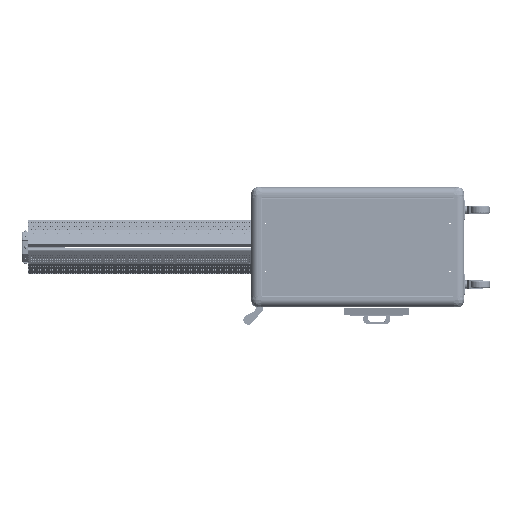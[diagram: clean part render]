
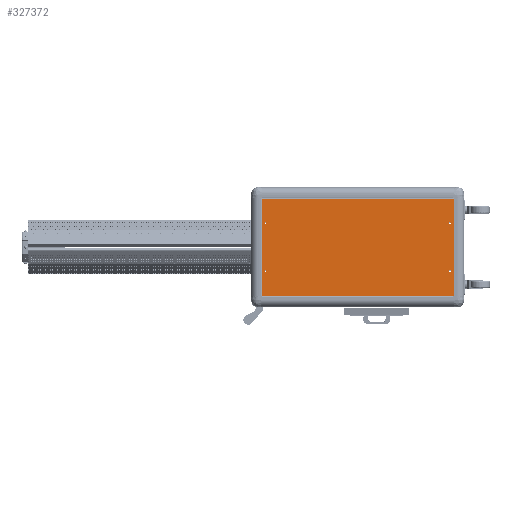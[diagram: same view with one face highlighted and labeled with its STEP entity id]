
A CAD part, top view. The second image highlights one B-rep face of the part: STEP entity #327372.
In plain terms, the highlighted planar face has unit normal (0, 0, 1).
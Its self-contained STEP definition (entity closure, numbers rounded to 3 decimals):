
#2383 = AXIS2_PLACEMENT_3D ( 'NONE', #238593, #20864, #367246 ) ;
#2633 = DIRECTION ( 'NONE',  ( 1., 0., 0. ) ) ;
#3320 = VECTOR ( 'NONE', #185070, 1000. ) ;
#19205 = EDGE_CURVE ( 'NONE', #229386, #267822, #277544, .T. ) ;
#20864 = DIRECTION ( 'NONE',  ( 0., 0., 1. ) ) ;
#22503 = AXIS2_PLACEMENT_3D ( 'NONE', #250299, #347383, #119478 ) ;
#27956 = ORIENTED_EDGE ( 'NONE', *, *, #185155, .F. ) ;
#36772 = EDGE_CURVE ( 'NONE', #188291, #226147, #366383, .T. ) ;
#38645 = EDGE_LOOP ( 'NONE', ( #27956, #372446 ) ) ;
#39757 = AXIS2_PLACEMENT_3D ( 'NONE', #73276, #231769, #301208 ) ;
#41330 = EDGE_LOOP ( 'NONE', ( #88248, #336116 ) ) ;
#42962 = DIRECTION ( 'NONE',  ( 0., 0., 1. ) ) ;
#47497 = EDGE_CURVE ( 'NONE', #128865, #229386, #127918, .T. ) ;
#50795 = FACE_BOUND ( 'NONE', #280369, .T. ) ;
#54948 = FACE_BOUND ( 'NONE', #329719, .T. ) ;
#62246 = CARTESIAN_POINT ( 'NONE',  ( -202.5, 400., 0. ) ) ;
#73276 = CARTESIAN_POINT ( 'NONE',  ( -100., -385., 0. ) ) ;
#79215 = CARTESIAN_POINT ( 'NONE',  ( 202.5, -400., 0. ) ) ;
#84532 = EDGE_CURVE ( 'NONE', #407400, #89195, #246359, .T. ) ;
#86158 = AXIS2_PLACEMENT_3D ( 'NONE', #353490, #416723, #256465 ) ;
#87291 = CIRCLE ( 'NONE', #390662, 3.5 ) ;
#88248 = ORIENTED_EDGE ( 'NONE', *, *, #36772, .F. ) ;
#89195 = VERTEX_POINT ( 'NONE', #227959 ) ;
#93770 = CIRCLE ( 'NONE', #39757, 3.5 ) ;
#100839 = ORIENTED_EDGE ( 'NONE', *, *, #215439, .F. ) ;
#101630 = DIRECTION ( 'NONE',  ( 0., 0., 1. ) ) ;
#104352 = ORIENTED_EDGE ( 'NONE', *, *, #134070, .F. ) ;
#105088 = CARTESIAN_POINT ( 'NONE',  ( -103.5, -385., 0. ) ) ;
#112915 = CARTESIAN_POINT ( 'NONE',  ( -103.5, 385., 0. ) ) ;
#119331 = EDGE_CURVE ( 'NONE', #226147, #188291, #319542, .T. ) ;
#119478 = DIRECTION ( 'NONE',  ( 1., 0., 0. ) ) ;
#119867 = AXIS2_PLACEMENT_3D ( 'NONE', #338016, #183857, #373762 ) ;
#125225 = AXIS2_PLACEMENT_3D ( 'NONE', #390664, #101630, #295704 ) ;
#127918 = LINE ( 'NONE', #216768, #3320 ) ;
#128865 = VERTEX_POINT ( 'NONE', #336737 ) ;
#134070 = EDGE_CURVE ( 'NONE', #376327, #246622, #353231, .T. ) ;
#144876 = VECTOR ( 'NONE', #176395, 1000. ) ;
#145958 = FACE_BOUND ( 'NONE', #38645, .T. ) ;
#156159 = EDGE_CURVE ( 'NONE', #313247, #310044, #379969, .T. ) ;
#164164 = ORIENTED_EDGE ( 'NONE', *, *, #171629, .T. ) ;
#171629 = EDGE_CURVE ( 'NONE', #369685, #128865, #182099, .T. ) ;
#176395 = DIRECTION ( 'NONE',  ( 0., 1., 0. ) ) ;
#182099 = LINE ( 'NONE', #243315, #335539 ) ;
#182676 = CARTESIAN_POINT ( 'NONE',  ( -96.5, -385., 0. ) ) ;
#183857 = DIRECTION ( 'NONE',  ( 0., 0., -1. ) ) ;
#185070 = DIRECTION ( 'NONE',  ( 1., 0., 0. ) ) ;
#185155 = EDGE_CURVE ( 'NONE', #310044, #313247, #93770, .T. ) ;
#188291 = VERTEX_POINT ( 'NONE', #387870 ) ;
#197363 = CARTESIAN_POINT ( 'NONE',  ( 100., -385., 0. ) ) ;
#197520 = ORIENTED_EDGE ( 'NONE', *, *, #47497, .T. ) ;
#209390 = FACE_OUTER_BOUND ( 'NONE', #359856, .T. ) ;
#209408 = CARTESIAN_POINT ( 'NONE',  ( -96.5, 385., 0. ) ) ;
#215439 = EDGE_CURVE ( 'NONE', #89195, #407400, #87291, .T. ) ;
#216592 = ORIENTED_EDGE ( 'NONE', *, *, #242614, .T. ) ;
#216768 = CARTESIAN_POINT ( 'NONE',  ( -202.5, -400., 0. ) ) ;
#217960 = DIRECTION ( 'NONE',  ( 0., -1., 0. ) ) ;
#226147 = VERTEX_POINT ( 'NONE', #231730 ) ;
#227959 = CARTESIAN_POINT ( 'NONE',  ( 103.5, 385., 0. ) ) ;
#229386 = VERTEX_POINT ( 'NONE', #399891 ) ;
#231730 = CARTESIAN_POINT ( 'NONE',  ( 96.5, -385., 0. ) ) ;
#231769 = DIRECTION ( 'NONE',  ( 0., 0., 1. ) ) ;
#232821 = CARTESIAN_POINT ( 'NONE',  ( -100., 385., 0. ) ) ;
#233585 = VECTOR ( 'NONE', #366079, 1000. ) ;
#237252 = DIRECTION ( 'NONE',  ( 1., 0., 0. ) ) ;
#238593 = CARTESIAN_POINT ( 'NONE',  ( -100., -385., 0. ) ) ;
#241265 = DIRECTION ( 'NONE',  ( 0., 0., 1. ) ) ;
#242614 = EDGE_CURVE ( 'NONE', #267822, #369685, #302784, .T. ) ;
#243315 = CARTESIAN_POINT ( 'NONE',  ( -202.5, -400., 0. ) ) ;
#243699 = EDGE_CURVE ( 'NONE', #246622, #376327, #268152, .T. ) ;
#246359 = CIRCLE ( 'NONE', #125225, 3.5 ) ;
#246622 = VERTEX_POINT ( 'NONE', #209408 ) ;
#248289 = CARTESIAN_POINT ( 'NONE',  ( 202.5, 400., 0. ) ) ;
#250299 = CARTESIAN_POINT ( 'NONE',  ( 100., -385., 0. ) ) ;
#250554 = ORIENTED_EDGE ( 'NONE', *, *, #19205, .T. ) ;
#253691 = ORIENTED_EDGE ( 'NONE', *, *, #243699, .F. ) ;
#256465 = DIRECTION ( 'NONE',  ( 1., 0., 0. ) ) ;
#267822 = VERTEX_POINT ( 'NONE', #248289 ) ;
#268152 = CIRCLE ( 'NONE', #86158, 3.5 ) ;
#277544 = LINE ( 'NONE', #79215, #144876 ) ;
#279063 = DIRECTION ( 'NONE',  ( 1., 0., 0. ) ) ;
#279154 = AXIS2_PLACEMENT_3D ( 'NONE', #197363, #42962, #237252 ) ;
#279953 = ORIENTED_EDGE ( 'NONE', *, *, #84532, .F. ) ;
#280369 = EDGE_LOOP ( 'NONE', ( #100839, #279953 ) ) ;
#295704 = DIRECTION ( 'NONE',  ( 1., 0., 0. ) ) ;
#296183 = CARTESIAN_POINT ( 'NONE',  ( 100., 385., 0. ) ) ;
#301208 = DIRECTION ( 'NONE',  ( 1., 0., 0. ) ) ;
#302784 = LINE ( 'NONE', #374413, #233585 ) ;
#310044 = VERTEX_POINT ( 'NONE', #182676 ) ;
#313247 = VERTEX_POINT ( 'NONE', #105088 ) ;
#314586 = PLANE ( 'NONE',  #119867 ) ;
#319494 = AXIS2_PLACEMENT_3D ( 'NONE', #232821, #361472, #2633 ) ;
#319542 = CIRCLE ( 'NONE', #279154, 3.5 ) ;
#327372 = ADVANCED_FACE ( 'NONE', ( #50795, #145958, #344216, #54948, #209390 ), #314586, .F. ) ;
#329719 = EDGE_LOOP ( 'NONE', ( #253691, #104352 ) ) ;
#335539 = VECTOR ( 'NONE', #217960, 1000. ) ;
#336116 = ORIENTED_EDGE ( 'NONE', *, *, #119331, .F. ) ;
#336737 = CARTESIAN_POINT ( 'NONE',  ( -202.5, -400., 0. ) ) ;
#338016 = CARTESIAN_POINT ( 'NONE',  ( 0., 0., 0. ) ) ;
#344216 = FACE_BOUND ( 'NONE', #41330, .T. ) ;
#347383 = DIRECTION ( 'NONE',  ( 0., 0., 1. ) ) ;
#353231 = CIRCLE ( 'NONE', #319494, 3.5 ) ;
#353490 = CARTESIAN_POINT ( 'NONE',  ( -100., 385., 0. ) ) ;
#359856 = EDGE_LOOP ( 'NONE', ( #250554, #216592, #164164, #197520 ) ) ;
#361472 = DIRECTION ( 'NONE',  ( 0., 0., 1. ) ) ;
#366079 = DIRECTION ( 'NONE',  ( -1., 0., 0. ) ) ;
#366383 = CIRCLE ( 'NONE', #22503, 3.5 ) ;
#367246 = DIRECTION ( 'NONE',  ( 1., 0., 0. ) ) ;
#369685 = VERTEX_POINT ( 'NONE', #62246 ) ;
#372446 = ORIENTED_EDGE ( 'NONE', *, *, #156159, .F. ) ;
#373762 = DIRECTION ( 'NONE',  ( -1., 0., 0. ) ) ;
#374413 = CARTESIAN_POINT ( 'NONE',  ( -202.5, 400., 0. ) ) ;
#376327 = VERTEX_POINT ( 'NONE', #112915 ) ;
#379969 = CIRCLE ( 'NONE', #2383, 3.5 ) ;
#387870 = CARTESIAN_POINT ( 'NONE',  ( 103.5, -385., 0. ) ) ;
#390662 = AXIS2_PLACEMENT_3D ( 'NONE', #296183, #241265, #279063 ) ;
#390664 = CARTESIAN_POINT ( 'NONE',  ( 100., 385., 0. ) ) ;
#399891 = CARTESIAN_POINT ( 'NONE',  ( 202.5, -400., 0. ) ) ;
#402313 = CARTESIAN_POINT ( 'NONE',  ( 96.5, 385., 0. ) ) ;
#407400 = VERTEX_POINT ( 'NONE', #402313 ) ;
#416723 = DIRECTION ( 'NONE',  ( 0., 0., 1. ) ) ;
